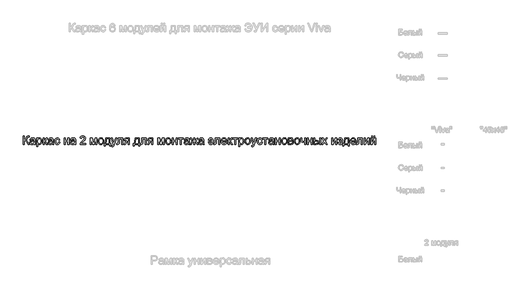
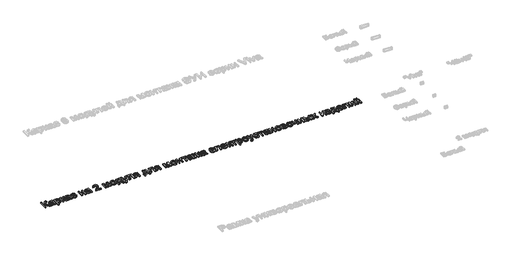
# One storey, part 19 of 48: 1 proxy.
"""IFC4 building model written with IfcOpenShell, lengths in millimetres."""

from ifc_helpers import new_model, si_unit, origin, origin_with_axes, place, context, project, spatial, polyline, outline, extrude, element, save

model = new_model("IFC4")

# Units and contexts
model_context = context("Model", 3, world=origin())
ifc_project = project(units=[si_unit("LENGTHUNIT", "METRE", prefix="MILLI")], contexts=[model_context])

# Site, building, storey
site = spatial("IfcSite", under=ifc_project)
building = spatial("IfcBuilding", under=site)
storey = spatial("IfcBuildingStorey", under=building, Name="Этаж 01", Elevation=0.0)

# Proxy
placement = place(None, origin())
element("IfcBuildingElementProxy", 1, Name="150 мм Arial", ObjectType="150 мм Arial", at=placement, inside=storey, context=model_context, shape_type="SweptSolid", body=[
    extrude(outline(polyline([(69871.8637048, -5429.4534975), (69890.699263, -5429.4534975), (69890.699263, -5495.377951), (69903.4509727, -5494.1317507), (69911.7605072, -5490.39315), (69926.4573929, -5465.1748392), (69936.8500593, -5444.113595), (69948.6222831, -5433.6841404), (69965.4528844, -5429.4534975), (69977.8137195, -5429.6742267), (69977.8137195, -5448.5097848), (69973.6566529, -5448.3994202), (69969.4995864, -5448.2890556), (69954.7843066, -5452.8140042), (69943.6006939, -5472.2013853), (69930.2649716, -5495.8194094), (69917.260343, -5503.6185077), (69931.8008789, -5512.1349759), (69946.1390797, -5529.8852821), (69977.8137195, -5580.1379627), (69955.9615289, -5580.1379627), (69929.1797197, -5537.6843804), (69910.3257674, -5515.5194902), (69901.6207597, -5511.0083373), (69890.699263, -5509.5046196), (69890.699263, -5580.1379627), (69871.8637048, -5580.1379627), (69871.8637048, -5429.4534975)])), origin_with_axes(), (0.0, 0.0, 1.0), 20.0),
    extrude(outline(polyline([(70062.5737311, -5566.0112941), (70044.3083901, -5578.7767993), (70024.1300626, -5582.4924075), (70008.3893118, -5580.2575243), (69996.7780363, -5573.552875), (69989.618133, -5563.3717408), (69987.2314985, -5550.7074031), (69990.8367421, -5535.8081823), (70000.3097035, -5524.9924516), (70013.498273, -5518.8120341), (70029.7954454, -5515.9793427), (70062.4633665, -5509.5046196), (70062.5737311, -5505.3107649), (70061.2769471, -5496.9046613), (70057.386595, -5491.4048255), (70048.6861858, -5487.3213353), (70036.5644741, -5485.9601719), (70017.5081867, -5489.5838096), (70008.4215014, -5502.4412853), (69989.5859433, -5500.0868405), (69997.7345295, -5481.6927408), (70014.1420665, -5470.9137983), (70038.9924952, -5467.1246138), (70061.819573, -5470.4723399), (70074.713837, -5478.8784435), (70080.4895843, -5491.6623429), (70081.4092893, -5508.1434562), (70081.4092893, -5531.5775393), (70082.3657825, -5564.3006428), (70086.1181788, -5580.1379627), (70067.2826207, -5580.1379627), (70062.5737311, -5566.0112941)]), holes=[polyline([(70062.5737311, -5528.3401778), (70032.1866783, -5534.1159251), (70015.9814765, -5537.1693457), (70008.6422306, -5542.1357526), (70006.0670567, -5549.3830279), (70011.6772571, -5559.5733592), (70028.1399764, -5563.6568493), (70047.1962637, -5559.1502949), (70059.4835224, -5548.2425937), (70062.4633665, -5533.6744667), (70062.5737311, -5528.3401778)])]), origin_with_axes(), (0.0, 0.0, 1.0), 20.0),
    extrude(outline(polyline([(70107.3081818, -5622.5179685), (70107.3081818, -5469.4790585), (70126.1437399, -5469.4790585), (70126.1437399, -5487.9467347), (70139.1667625, -5472.330144), (70156.7515219, -5467.1246138), (70169.489436, -5468.9456296), (70180.6270634, -5474.4086773), (70189.6953546, -5483.1826629), (70196.22526, -5494.9364926), (70201.4859725, -5523.962382), (70200.000649, -5540.0710149), (70195.5446783, -5554.4781935), (70188.2606148, -5566.4527525), (70178.2910127, -5575.2635263), (70166.6797372, -5580.6851872), (70154.4706535, -5582.4924075), (70138.0815106, -5577.6547592), (70126.1437399, -5565.4226829), (70126.1437399, -5622.5179685), (70107.3081818, -5622.5179685)]), holes=[polyline([(70126.1437399, -5525.6914274), (70128.1808865, -5542.577211), (70134.2923261, -5554.386223), (70143.3100335, -5561.3391927), (70154.0659833, -5563.6568493), (70164.9966771, -5561.2564193), (70174.2443108, -5554.0551292), (70180.5488885, -5541.8138558), (70182.6504144, -5524.2934758), (70180.5994722, -5507.4996627), (70174.4466459, -5495.5251038), (70165.442734, -5488.3514049), (70154.8385355, -5485.9601719), (70144.1929503, -5488.5031562), (70134.8441491, -5496.1321091), (70128.3188422, -5508.6079073), (70126.1437399, -5525.6914274)])]), origin_with_axes(), (0.0, 0.0, 1.0), 20.0),
    extrude(outline(polyline([(70222.6759754, -5469.4790585), (70241.5115336, -5469.4790585), (70241.5115336, -5516.5679539), (70254.129886, -5513.1834396), (70264.4673701, -5493.4649646), (70273.0574147, -5476.4504223), (70280.6357838, -5470.9137983), (70294.4129645, -5469.4790585), (70298.0182081, -5469.4790585), (70298.0182081, -5488.4249813), (70292.9414365, -5488.3146167), (70283.7443866, -5490.3011795), (70277.2696635, -5502.6988027), (70269.6729003, -5516.1081014), (70259.0227166, -5522.674795), (70270.905305, -5530.0048438), (70282.5671643, -5545.4466905), (70302.7270976, -5580.1379627), (70281.3163655, -5580.1379627), (70261.5611023, -5546.1824545), (70251.6282885, -5531.8166626), (70241.5115336, -5528.3401778), (70241.5115336, -5580.1379627), (70222.6759754, -5580.1379627), (70222.6759754, -5469.4790585)])), origin_with_axes(), (0.0, 0.0, 1.0), 20.0),
    extrude(outline(polyline([(70385.1326645, -5566.0112941), (70366.8673234, -5578.7767993), (70346.688996, -5582.4924075), (70330.9482451, -5580.2575243), (70319.3369697, -5573.552875), (70312.1770663, -5563.3717408), (70309.7904319, -5550.7074031), (70313.3956755, -5535.8081823), (70322.8686368, -5524.9924516), (70336.0572064, -5518.8120341), (70352.3543787, -5515.9793427), (70385.0222999, -5509.5046196), (70385.1326645, -5505.3107649), (70383.8358805, -5496.9046613), (70379.9455284, -5491.4048255), (70371.2451192, -5487.3213353), (70359.1234075, -5485.9601719), (70340.0671201, -5489.5838096), (70330.9804348, -5502.4412853), (70312.1448767, -5500.0868405), (70320.2934629, -5481.6927408), (70336.7009998, -5470.9137983), (70361.5514286, -5467.1246138), (70384.3785064, -5470.4723399), (70397.2727704, -5478.8784435), (70403.0485177, -5491.6623429), (70403.9682227, -5508.1434562), (70403.9682227, -5531.5775393), (70404.9247159, -5564.3006428), (70408.6771122, -5580.1379627), (70389.841554, -5580.1379627), (70385.1326645, -5566.0112941)]), holes=[polyline([(70385.1326645, -5528.3401778), (70354.7456117, -5534.1159251), (70338.5404098, -5537.1693457), (70331.201164, -5542.1357526), (70328.6259901, -5549.3830279), (70334.2361905, -5559.5733592), (70350.6989098, -5563.6568493), (70369.7551971, -5559.1502949), (70382.0424558, -5548.2425937), (70385.0222999, -5533.6744667), (70385.1326645, -5528.3401778)])]), origin_with_axes(), (0.0, 0.0, 1.0), 20.0),
    extrude(outline(polyline([(70500.5004582, -5540.1124016), (70519.3360164, -5542.4668464), (70514.0845009, -5559.2192727), (70504.2160663, -5571.8790119), (70490.6596148, -5579.8390586), (70474.3440483, -5582.4924075), (70454.3082752, -5578.7905949), (70438.6411007, -5567.6851572), (70428.5289444, -5549.6635379), (70425.1582256, -5525.2131808), (70426.5975639, -5508.4515574), (70430.9155788, -5493.9248171), (70438.1812482, -5482.19398), (70448.46355, -5473.8200661), (70460.7646042, -5468.7984769), (70474.0865309, -5467.1246138), (70490.0020258, -5469.4238762), (70502.7261443, -5476.3216637), (70511.8542163, -5487.450094), (70516.9815716, -5502.4412853), (70498.1460134, -5504.7957301), (70489.408816, -5490.6874556), (70474.2336837, -5485.9601719), (70462.0613882, -5488.2870255), (70452.3998873, -5495.2675864), (70446.0953096, -5507.2789335), (70443.9937837, -5524.698146), (70446.0493244, -5542.3518833), (70452.2159463, -5554.4046171), (70461.7027033, -5561.3437913), (70473.7186489, -5563.6568493), (70483.4721203, -5562.2129125), (70491.4689552, -5557.881102), (70497.2860893, -5550.5510532), (70500.5004582, -5540.1124016)])), origin_with_axes(), (0.0, 0.0, 1.0), 20.0),
    extrude(outline(polyline([(70594.678249, -5469.4790585), (70613.5138071, -5469.4790585), (70613.5138071, -5511.8590644), (70662.9571473, -5511.8590644), (70662.9571473, -5469.4790585), (70681.7927054, -5469.4790585), (70681.7927054, -5580.1379627), (70662.9571473, -5580.1379627), (70662.9571473, -5530.6946225), (70613.5138071, -5530.6946225), (70613.5138071, -5580.1379627), (70594.678249, -5580.1379627), (70594.678249, -5469.4790585)])), origin_with_axes(), (0.0, 0.0, 1.0), 20.0),
    extrude(outline(polyline([(70780.6793857, -5566.0112941), (70762.4140447, -5578.7767993), (70742.2357172, -5582.4924075), (70726.4949664, -5580.2575243), (70714.8836909, -5573.552875), (70707.7237876, -5563.3717408), (70705.3371531, -5550.7074031), (70708.9423967, -5535.8081823), (70718.415358, -5524.9924516), (70731.6039276, -5518.8120341), (70747.9011, -5515.9793427), (70780.5690211, -5509.5046196), (70780.6793857, -5505.3107649), (70779.3826017, -5496.9046613), (70775.4922496, -5491.4048255), (70766.7918404, -5487.3213353), (70754.6701287, -5485.9601719), (70735.6138413, -5489.5838096), (70726.527156, -5502.4412853), (70707.6915979, -5500.0868405), (70715.8401841, -5481.6927408), (70732.2477211, -5470.9137983), (70757.0981498, -5467.1246138), (70779.9252276, -5470.4723399), (70792.8194916, -5478.8784435), (70798.5952389, -5491.6623429), (70799.5149439, -5508.1434562), (70799.5149439, -5531.5775393), (70800.4714371, -5564.3006428), (70804.2238334, -5580.1379627), (70785.3882753, -5580.1379627), (70780.6793857, -5566.0112941)]), holes=[polyline([(70780.6793857, -5528.3401778), (70750.2923329, -5534.1159251), (70734.087131, -5537.1693457), (70726.7478852, -5542.1357526), (70724.1727113, -5549.3830279), (70729.7829117, -5559.5733592), (70746.245631, -5563.6568493), (70765.3019183, -5559.1502949), (70777.589177, -5548.2425937), (70780.5690211, -5533.6744667), (70780.6793857, -5528.3401778)])]), origin_with_axes(), (0.0, 0.0, 1.0), 20.0),
    extrude(outline(polyline([(70976.0983016, -5561.3024045), (70976.0983016, -5580.1379627), (70877.2116213, -5580.1379627), (70879.2349722, -5567.1517283), (70890.6761023, -5547.1573418), (70914.2573382, -5525.3235454), (70946.7781065, -5493.9432112), (70952.8757506, -5483.1274806), (70954.9082986, -5472.6060555), (70952.9907137, -5463.1744808), (70947.237959, -5455.3339958), (70938.3949956, -5450.0502907), (70927.2067844, -5448.2890556), (70915.4575532, -5450.0089039), (70906.3294812, -5455.1684489), (70900.4387707, -5463.3630204), (70898.4016242, -5474.1879481), (70879.566066, -5471.8335033), (70884.1324013, -5453.6141475), (70894.0054343, -5440.3060163), (70908.6701304, -5432.1666272), (70927.6114546, -5429.4534975), (70946.6907346, -5432.4701298), (70961.3278395, -5441.5200269), (70970.6398525, -5455.0396902), (70973.7438568, -5471.4656213), (70970.3961306, -5489.3262922), (70959.2677003, -5507.7939683), (70932.2835559, -5533.6008903), (70910.6153064, -5551.7190786), (70902.1172323, -5561.3024045), (70976.0983016, -5561.3024045)])), origin_with_axes(), (0.0, 0.0, 1.0), 20.0),
    extrude(outline(polyline([(71058.5038685, -5469.4790585), (71090.9142723, -5469.4790585), (71115.8934597, -5558.065043), (71142.8224218, -5469.4790585), (71173.8716622, -5469.4790585), (71173.8716622, -5580.1379627), (71155.036104, -5580.1379627), (71155.036104, -5491.0369435), (71127.9599892, -5580.1379627), (71103.2383191, -5580.1379627), (71077.3394266, -5486.7695123), (71077.3394266, -5580.1379627), (71058.5038685, -5580.1379627), (71058.5038685, -5469.4790585)])), origin_with_axes(), (0.0, 0.0, 1.0), 20.0),
    extrude(outline(polyline([(71197.4161099, -5524.8085106), (71201.490403, -5498.1278689), (71213.7132822, -5479.3750842), (71228.8148381, -5470.1872314), (71246.8962382, -5467.1246138), (71266.683691, -5470.8540175), (71282.4888212, -5482.0422287), (71292.8492979, -5499.8063305), (71296.3027902, -5523.2634062), (71294.7760799, -5542.2921024), (71290.195949, -5556.777456), (71282.6957549, -5567.6253763), (71272.4088546, -5575.7417728), (71260.1905738, -5580.8047488), (71246.8962382, -5582.4924075), (71226.8696621, -5578.7767993), (71211.082926, -5567.6299749), (71200.8328139, -5549.4933925), (71197.4161099, -5524.8085106)]), holes=[polyline([(71216.251668, -5524.7717224), (71218.4313688, -5541.8184544), (71224.9704713, -5553.9631587), (71234.8113147, -5561.2334267), (71246.8962382, -5563.6568493), (71258.9259795, -5561.2196311), (71268.7484287, -5553.9079764), (71275.2875312, -5541.6023237), (71277.467232, -5524.1831112), (71275.2737356, -5507.63302), (71268.6932464, -5495.6538625), (71258.8570016, -5488.3835946), (71246.8962382, -5485.9601719), (71234.8113147, -5488.3743975), (71224.9704713, -5495.6170743), (71218.4313688, -5507.7341875), (71216.251668, -5524.7717224)])]), origin_with_axes(), (0.0, 0.0, 1.0), 20.0),
    extrude(outline(polyline([(71333.9739065, -5469.4790585), (71404.6072495, -5469.4790585), (71404.6072495, -5561.3024045), (71418.7339182, -5561.3024045), (71418.7339182, -5610.7457447), (71399.89836, -5610.7457447), (71399.89836, -5580.1379627), (71322.2016826, -5580.1379627), (71322.2016826, -5610.7457447), (71303.3661245, -5610.7457447), (71303.3661245, -5561.3024045), (71315.1383483, -5561.3024045), (71323.6962032, -5545.8375652), (71329.6880812, -5525.3787277), (71333.9739065, -5469.4790585)]), holes=[polyline([(71350.4550199, -5488.3146167), (71346.0404359, -5531.2280514), (71336.3283512, -5561.3024045), (71385.7716914, -5561.3024045), (71385.7716914, -5488.3146167), (71350.4550199, -5488.3146167)])]), origin_with_axes(), (0.0, 0.0, 1.0), 20.0),
    extrude(outline(polyline([(71439.9239211, -5622.5179685), (71437.5694763, -5604.3813862), (71447.1344082, -5606.0368552), (71456.0739407, -5603.9583219), (71461.5553824, -5598.1641805), (71466.7057303, -5584.2950292), (71468.1772583, -5579.7332925), (71428.1516972, -5469.4790585), (71448.017325, -5469.4790585), (71469.2441161, -5530.9153517), (71476.6385442, -5555.489869), (71484.0329723, -5533.7848313), (71505.8483746, -5469.4790585), (71525.5668496, -5469.4790585), (71487.0496047, -5582.7867131), (71477.0432144, -5607.3612303), (71466.1171191, -5620.6417704), (71451.4386275, -5624.8724133), (71439.9239211, -5622.5179685)])), origin_with_axes(), (0.0, 0.0, 1.0), 20.0),
    extrude(outline(polyline([(71550.5828252, -5469.4790585), (71635.3428369, -5469.4790585), (71635.3428369, -5580.0275981), (71616.5072788, -5580.0275981), (71616.5072788, -5488.3146167), (71569.4183834, -5488.3146167), (71569.4183834, -5541.105683), (71568.1491905, -5565.4594711), (71561.1778267, -5575.7417728), (71544.6967133, -5580.1379627), (71529.3928223, -5579.1814695), (71529.3928223, -5561.3024045), (71537.81732, -5561.3024045), (71546.3337882, -5560.1435763), (71549.7366966, -5556.4647563), (71550.5828252, -5540.0388252), (71550.5828252, -5469.4790585)])), origin_with_axes(), (0.0, 0.0, 1.0), 20.0),
    extrude(outline(polyline([(71748.3561858, -5469.4790585), (71748.3561858, -5580.1379627), (71729.5206277, -5580.1379627), (71729.5206277, -5537.7579568), (71719.25672, -5537.7579568), (71705.2772042, -5540.1491898), (71692.143817, -5556.225633), (71677.1342316, -5580.1379627), (71655.3556175, -5580.1379627), (71674.264752, -5549.8980627), (71682.6156733, -5539.0455438), (71690.304407, -5534.2262897), (71677.4285372, -5530.2807553), (71668.3786401, -5522.7851596), (71663.0259571, -5512.8155576), (71661.2417294, -5501.4480039), (71663.6789476, -5488.55374), (71670.9906023, -5478.3450146), (71682.9191759, -5471.6955476), (71699.2071513, -5469.4790585), (71748.3561858, -5469.4790585)]), holes=[polyline([(71729.5206277, -5488.3146167), (71704.688593, -5488.3146167), (71691.863307, -5489.4044671), (71684.583842, -5492.6740183), (71680.0772875, -5502.8827437), (71681.737355, -5510.0610411), (71686.7175575, -5515.0412436), (71710.2436111, -5518.9223987), (71729.5206277, -5518.9223987), (71729.5206277, -5488.3146167)])]), origin_with_axes(), (0.0, 0.0, 1.0), 20.0),
    extrude(outline(polyline([(71851.9517557, -5469.4790585), (71922.5850988, -5469.4790585), (71922.5850988, -5561.3024045), (71936.7117674, -5561.3024045), (71936.7117674, -5610.7457447), (71917.8762092, -5610.7457447), (71917.8762092, -5580.1379627), (71840.1795318, -5580.1379627), (71840.1795318, -5610.7457447), (71821.3439737, -5610.7457447), (71821.3439737, -5561.3024045), (71833.1161975, -5561.3024045), (71841.6740524, -5545.8375652), (71847.6659304, -5525.3787277), (71851.9517557, -5469.4790585)]), holes=[polyline([(71868.4328691, -5488.3146167), (71864.0182851, -5531.2280514), (71854.3062004, -5561.3024045), (71903.7495406, -5561.3024045), (71903.7495406, -5488.3146167), (71868.4328691, -5488.3146167)])]), origin_with_axes(), (0.0, 0.0, 1.0), 20.0),
    extrude(outline(polyline([(71967.3195494, -5469.4790585), (72052.0795611, -5469.4790585), (72052.0795611, -5580.0275981), (72033.2440029, -5580.0275981), (72033.2440029, -5488.3146167), (71986.1551075, -5488.3146167), (71986.1551075, -5541.105683), (71984.8859146, -5565.4594711), (71977.9145508, -5575.7417728), (71961.4334374, -5580.1379627), (71946.1295464, -5579.1814695), (71946.1295464, -5561.3024045), (71954.5540441, -5561.3024045), (71963.0705123, -5560.1435763), (71966.4734208, -5556.4647563), (71967.3195494, -5540.0388252), (71967.3195494, -5469.4790585)])), origin_with_axes(), (0.0, 0.0, 1.0), 20.0),
    extrude(outline(polyline([(72165.09291, -5469.4790585), (72165.09291, -5580.1379627), (72146.2573518, -5580.1379627), (72146.2573518, -5537.7579568), (72135.9934442, -5537.7579568), (72122.0139283, -5540.1491898), (72108.8805411, -5556.225633), (72093.8709557, -5580.1379627), (72072.0923416, -5580.1379627), (72091.0014761, -5549.8980627), (72099.3523974, -5539.0455438), (72107.0411311, -5534.2262897), (72094.1652613, -5530.2807553), (72085.1153642, -5522.7851596), (72079.7626812, -5512.8155576), (72077.9784535, -5501.4480039), (72080.4156717, -5488.55374), (72087.7273264, -5478.3450146), (72099.6559001, -5471.6955476), (72115.9438754, -5469.4790585), (72165.09291, -5469.4790585)]), holes=[polyline([(72146.2573518, -5488.3146167), (72121.4253171, -5488.3146167), (72108.6000311, -5489.4044671), (72101.3205661, -5492.6740183), (72096.8140117, -5502.8827437), (72098.4740792, -5510.0610411), (72103.4542817, -5515.0412436), (72126.9803353, -5518.9223987), (72146.2573518, -5518.9223987), (72146.2573518, -5488.3146167)])]), origin_with_axes(), (0.0, 0.0, 1.0), 20.0),
    extrude(outline(polyline([(72252.2073664, -5469.4790585), (72284.6177702, -5469.4790585), (72309.5969577, -5558.065043), (72336.5259197, -5469.4790585), (72367.5751601, -5469.4790585), (72367.5751601, -5580.1379627), (72348.739602, -5580.1379627), (72348.739602, -5491.0369435), (72321.6634871, -5580.1379627), (72296.941817, -5580.1379627), (72271.0429246, -5486.7695123), (72271.0429246, -5580.1379627), (72252.2073664, -5580.1379627), (72252.2073664, -5469.4790585)])), origin_with_axes(), (0.0, 0.0, 1.0), 20.0),
    extrude(outline(polyline([(72391.1196078, -5524.8085106), (72395.1939009, -5498.1278689), (72407.4167802, -5479.3750842), (72422.5183361, -5470.1872314), (72440.5997362, -5467.1246138), (72460.387189, -5470.8540175), (72476.1923192, -5482.0422287), (72486.5527959, -5499.8063305), (72490.0062881, -5523.2634062), (72488.4795778, -5542.2921024), (72483.899447, -5556.777456), (72476.3992528, -5567.6253763), (72466.1123525, -5575.7417728), (72453.8940718, -5580.8047488), (72440.5997362, -5582.4924075), (72420.57316, -5578.7767993), (72404.7864239, -5567.6299749), (72394.5363118, -5549.4933925), (72391.1196078, -5524.8085106)]), holes=[polyline([(72409.955166, -5524.7717224), (72412.1348668, -5541.8184544), (72418.6739692, -5553.9631587), (72428.5148126, -5561.2334267), (72440.5997362, -5563.6568493), (72452.6294774, -5561.2196311), (72462.4519267, -5553.9079764), (72468.9910291, -5541.6023237), (72471.17073, -5524.1831112), (72468.9772336, -5507.63302), (72462.3967444, -5495.6538625), (72452.5604995, -5488.3835946), (72440.5997362, -5485.9601719), (72428.5148126, -5488.3743975), (72418.6739692, -5495.6170743), (72412.1348668, -5507.7341875), (72409.955166, -5524.7717224)])]), origin_with_axes(), (0.0, 0.0, 1.0), 20.0),
    extrude(outline(polyline([(72511.196291, -5469.4790585), (72530.0318492, -5469.4790585), (72530.0318492, -5511.8590644), (72579.4751893, -5511.8590644), (72579.4751893, -5469.4790585), (72598.3107475, -5469.4790585), (72598.3107475, -5580.1379627), (72579.4751893, -5580.1379627), (72579.4751893, -5530.6946225), (72530.0318492, -5530.6946225), (72530.0318492, -5580.1379627), (72511.196291, -5580.1379627), (72511.196291, -5469.4790585)])), origin_with_axes(), (0.0, 0.0, 1.0), 20.0),
    extrude(outline(polyline([(72617.1463056, -5469.4790585), (72706.6152069, -5469.4790585), (72706.6152069, -5488.3146167), (72671.2985353, -5488.3146167), (72671.2985353, -5580.1379627), (72652.4629772, -5580.1379627), (72652.4629772, -5488.3146167), (72617.1463056, -5488.3146167), (72617.1463056, -5469.4790585)])), origin_with_axes(), (0.0, 0.0, 1.0), 20.0),
    extrude(outline(polyline([(72793.7296633, -5566.0112941), (72775.4643223, -5578.7767993), (72755.2859948, -5582.4924075), (72739.545244, -5580.2575243), (72727.9339685, -5573.552875), (72720.7740652, -5563.3717408), (72718.3874307, -5550.7074031), (72721.9926743, -5535.8081823), (72731.4656356, -5524.9924516), (72744.6542052, -5518.8120341), (72760.9513776, -5515.9793427), (72793.6192987, -5509.5046196), (72793.7296633, -5505.3107649), (72792.4328793, -5496.9046613), (72788.5425272, -5491.4048255), (72779.842118, -5487.3213353), (72767.7204063, -5485.9601719), (72748.6641189, -5489.5838096), (72739.5774336, -5502.4412853), (72720.7418755, -5500.0868405), (72728.8904617, -5481.6927408), (72745.2979987, -5470.9137983), (72770.1484274, -5467.1246138), (72792.9755052, -5470.4723399), (72805.8697692, -5478.8784435), (72811.6455165, -5491.6623429), (72812.5652215, -5508.1434562), (72812.5652215, -5531.5775393), (72813.5217147, -5564.3006428), (72817.274111, -5580.1379627), (72798.4385529, -5580.1379627), (72793.7296633, -5566.0112941)]), holes=[polyline([(72793.7296633, -5528.3401778), (72763.3426105, -5534.1159251), (72747.1374086, -5537.1693457), (72739.7981628, -5542.1357526), (72737.2229889, -5549.3830279), (72742.8331893, -5559.5733592), (72759.2959086, -5563.6568493), (72778.3521959, -5559.1502949), (72790.6394546, -5548.2425937), (72793.6192987, -5533.6744667), (72793.7296633, -5528.3401778)])]), origin_with_axes(), (0.0, 0.0, 1.0), 20.0),
    extrude(outline(polyline([(72906.7430123, -5469.4790585), (72906.7430123, -5516.5679539), (72917.7242898, -5512.6867989), (72928.1169562, -5492.5452596), (72940.5145794, -5473.2314549), (72958.136127, -5469.4790585), (72965.6041315, -5469.4790585), (72965.6041315, -5488.4249813), (72960.4169953, -5488.3146167), (72950.7049107, -5490.2643913), (72943.9726702, -5502.4780735), (72936.1551778, -5515.8689781), (72924.9899592, -5522.674795), (72937.304809, -5530.0048438), (72949.3069591, -5545.4466905), (72970.313021, -5580.1379627), (72948.7183479, -5580.1379627), (72928.0433798, -5545.9249371), (72917.5035606, -5531.706298), (72906.7430123, -5528.3401778), (72906.7430123, -5580.1379627), (72887.9074541, -5580.1379627), (72887.9074541, -5528.3401778), (72877.1836939, -5531.6327216), (72866.5702984, -5545.8513607), (72845.8953302, -5580.1379627), (72824.3374453, -5580.1379627), (72845.2699309, -5545.4466905), (72857.3640514, -5530.0048438), (72869.7340835, -5522.674795), (72857.8882833, -5515.1700023), (72847.7347402, -5495.8561976), (72842.7683333, -5489.4918391), (72834.6381412, -5488.2042521), (72829.0463349, -5488.3146167), (72829.0463349, -5469.4790585), (72831.8790262, -5469.4790585), (72848.3969278, -5470.6562809), (72856.9685783, -5475.6594761), (72866.5702984, -5492.5452596), (72876.8526001, -5512.5580402), (72887.9074541, -5516.5679539), (72887.9074541, -5469.4790585), (72906.7430123, -5469.4790585)])), origin_with_axes(), (0.0, 0.0, 1.0), 20.0),
    extrude(outline(polyline([(73050.3641432, -5566.0112941), (73032.0988021, -5578.7767993), (73011.9204747, -5582.4924075), (72996.1797238, -5580.2575243), (72984.5684483, -5573.552875), (72977.408545, -5563.3717408), (72975.0219106, -5550.7074031), (72978.6271541, -5535.8081823), (72988.1001155, -5524.9924516), (73001.288685, -5518.8120341), (73017.5858574, -5515.9793427), (73050.2537786, -5509.5046196), (73050.3641432, -5505.3107649), (73049.0673591, -5496.9046613), (73045.177007, -5491.4048255), (73036.4765978, -5487.3213353), (73024.3548861, -5485.9601719), (73005.2985988, -5489.5838096), (72996.2119135, -5502.4412853), (72977.3763553, -5500.0868405), (72985.5249415, -5481.6927408), (73001.9324785, -5470.9137983), (73026.7829073, -5467.1246138), (73049.6099851, -5470.4723399), (73062.504249, -5478.8784435), (73068.2799963, -5491.6623429), (73069.1997013, -5508.1434562), (73069.1997013, -5531.5775393), (73070.1561945, -5564.3006428), (73073.9085909, -5580.1379627), (73055.0730327, -5580.1379627), (73050.3641432, -5566.0112941)]), holes=[polyline([(73050.3641432, -5528.3401778), (73019.9770904, -5534.1159251), (73003.7718885, -5537.1693457), (72996.4326427, -5542.1357526), (72993.8574687, -5549.3830279), (72999.4676691, -5559.5733592), (73015.9303884, -5563.6568493), (73034.9866758, -5559.1502949), (73047.2739344, -5548.2425937), (73050.2537786, -5533.6744667), (73050.3641432, -5528.3401778)])]), origin_with_axes(), (0.0, 0.0, 1.0), 20.0),
    extrude(outline(polyline([(73184.567495, -5511.8590644), (73219.8841665, -5511.8590644), (73216.9824973, -5501.4250113), (73211.3676984, -5493.1522649), (73203.4076517, -5487.7581952), (73193.4702393, -5485.9601719), (73178.2031365, -5490.6690615), (73170.4408264, -5504.7957301), (73151.6052682, -5502.4412853), (73155.9968596, -5488.3008211), (73164.5363204, -5477.0022453), (73176.7913893, -5469.5940217), (73192.3298051, -5467.1246138), (73211.5562379, -5470.9689806), (73226.2669192, -5482.5020812), (73235.6065233, -5500.7674222), (73238.7197247, -5524.8085106), (73236.1491493, -5548.7392344), (73227.2602005, -5567.5563985), (73212.7334603, -5579.4205928), (73193.2495101, -5582.4924075), (73176.5476675, -5579.737891), (73163.3774921, -5571.4743417), (73154.143654, -5558.713435), (73149.2508235, -5542.4668464), (73168.0863816, -5540.1124016), (73171.0616273, -5550.4130975), (73176.1981796, -5557.7707374), (73183.4960387, -5562.1853213), (73192.9552045, -5563.6568493), (73203.5961912, -5561.5967101), (73211.6068217, -5555.4162926), (73217.023884, -5545.1155967), (73219.8841665, -5530.6946225), (73184.567495, -5530.6946225), (73184.567495, -5511.8590644)])), origin_with_axes(), (0.0, 0.0, 1.0), 20.0),
    extrude(outline(polyline([(73269.3275067, -5469.4790585), (73354.0875184, -5469.4790585), (73354.0875184, -5580.0275981), (73335.2519602, -5580.0275981), (73335.2519602, -5488.3146167), (73288.1630648, -5488.3146167), (73288.1630648, -5541.105683), (73286.893872, -5565.4594711), (73279.9225082, -5575.7417728), (73263.4413948, -5580.1379627), (73248.1375038, -5579.1814695), (73248.1375038, -5561.3024045), (73256.5620015, -5561.3024045), (73265.0784697, -5560.1435763), (73268.4813781, -5556.4647563), (73269.3275067, -5540.0388252), (73269.3275067, -5469.4790585)])), origin_with_axes(), (0.0, 0.0, 1.0), 20.0),
    extrude(outline(polyline([(73459.8168038, -5547.1757359), (73478.28448, -5549.5301807), (73471.6304144, -5563.4453172), (73461.0124203, -5573.8471806), (73446.669621, -5580.3311007), (73428.8411398, -5582.4924075), (73406.7406289, -5578.7630037), (73389.7352837, -5567.5747926), (73378.8919619, -5549.6543409), (73375.2775213, -5525.7282156), (73378.9287501, -5500.9973485), (73389.8824365, -5482.5020812), (73406.6578555, -5470.9689806), (73427.774282, -5467.1246138), (73448.2331195, -5470.9597836), (73464.5808756, -5482.465293), (73475.3000373, -5500.9237721), (73478.8730911, -5525.617851), (73478.7627266, -5530.6946225), (73394.1130795, -5530.6946225), (73397.3734336, -5544.7937), (73404.9472042, -5555.1587752), (73415.877898, -5561.5323308), (73429.2090218, -5563.6568493), (73447.676698, -5559.720512), (73459.8168038, -5547.1757359)]), holes=[polyline([(73394.1130795, -5511.8590644), (73460.037533, -5511.8590644), (73457.4899502, -5501.9078564), (73452.4959521, -5494.7893398), (73441.5146745, -5488.1674639), (73427.7007056, -5485.9601719), (73415.0041783, -5487.721407), (73404.5057458, -5493.0051121), (73397.2078867, -5501.2410703), (73394.1130795, -5511.8590644)])]), origin_with_axes(), (0.0, 0.0, 1.0), 20.0),
    extrude(outline(polyline([(73497.7086493, -5469.4790585), (73516.5442075, -5469.4790585), (73516.5442075, -5516.5679539), (73529.1625599, -5513.1834396), (73539.500044, -5493.4649646), (73548.0900885, -5476.4504223), (73555.6684576, -5470.9137983), (73569.4456384, -5469.4790585), (73573.0508819, -5469.4790585), (73573.0508819, -5488.4249813), (73567.9741104, -5488.3146167), (73558.7770605, -5490.3011795), (73552.3023374, -5502.6988027), (73544.7055742, -5516.1081014), (73534.0553904, -5522.674795), (73545.9379789, -5530.0048438), (73557.5998381, -5545.4466905), (73577.7597715, -5580.1379627), (73556.3490393, -5580.1379627), (73536.5937762, -5546.1824545), (73526.6609623, -5531.8166626), (73516.5442075, -5528.3401778), (73516.5442075, -5580.1379627), (73497.7086493, -5580.1379627), (73497.7086493, -5469.4790585)])), origin_with_axes(), (0.0, 0.0, 1.0), 20.0),
    extrude(outline(polyline([(73580.1142162, -5469.4790585), (73669.5831174, -5469.4790585), (73669.5831174, -5488.3146167), (73634.2664459, -5488.3146167), (73634.2664459, -5580.1379627), (73615.4308878, -5580.1379627), (73615.4308878, -5488.3146167), (73580.1142162, -5488.3146167), (73580.1142162, -5469.4790585)])), origin_with_axes(), (0.0, 0.0, 1.0), 20.0),
    extrude(outline(polyline([(73686.0642308, -5622.5179685), (73686.0642308, -5469.4790585), (73704.899789, -5469.4790585), (73704.899789, -5487.9467347), (73717.9228116, -5472.330144), (73735.507571, -5467.1246138), (73748.2454851, -5468.9456296), (73759.3831125, -5474.4086773), (73768.4514037, -5483.1826629), (73774.9813091, -5494.9364926), (73780.2420216, -5523.962382), (73778.756698, -5540.0710149), (73774.3007274, -5554.4781935), (73767.0166639, -5566.4527525), (73757.0470618, -5575.2635263), (73745.4357863, -5580.6851872), (73733.2267026, -5582.4924075), (73716.8375597, -5577.6547592), (73704.899789, -5565.4226829), (73704.899789, -5622.5179685), (73686.0642308, -5622.5179685)]), holes=[polyline([(73704.899789, -5525.6914274), (73706.9369355, -5542.577211), (73713.0483752, -5554.386223), (73722.0660826, -5561.3391927), (73732.8220324, -5563.6568493), (73743.7527262, -5561.2564193), (73753.0003599, -5554.0551292), (73759.3049375, -5541.8138558), (73761.4064634, -5524.2934758), (73759.3555213, -5507.4996627), (73753.202695, -5495.5251038), (73744.1987831, -5488.3514049), (73733.5945846, -5485.9601719), (73722.9489994, -5488.5031562), (73713.6001982, -5496.1321091), (73707.0748913, -5508.6079073), (73704.899789, -5525.6914274)])]), origin_with_axes(), (0.0, 0.0, 1.0), 20.0),
    extrude(outline(polyline([(73796.723135, -5524.8085106), (73800.7974281, -5498.1278689), (73813.0203074, -5479.3750842), (73828.1218633, -5470.1872314), (73846.2032633, -5467.1246138), (73865.9907161, -5470.8540175), (73881.7958464, -5482.0422287), (73892.1563231, -5499.8063305), (73895.6098153, -5523.2634062), (73894.083105, -5542.2921024), (73889.5029742, -5556.777456), (73882.00278, -5567.6253763), (73871.7158797, -5575.7417728), (73859.4975989, -5580.8047488), (73846.2032633, -5582.4924075), (73826.1766872, -5578.7767993), (73810.3899511, -5567.6299749), (73800.139839, -5549.4933925), (73796.723135, -5524.8085106)]), holes=[polyline([(73815.5586931, -5524.7717224), (73817.738394, -5541.8184544), (73824.2774964, -5553.9631587), (73834.1183398, -5561.2334267), (73846.2032633, -5563.6568493), (73858.2330046, -5561.2196311), (73868.0554538, -5553.9079764), (73874.5945563, -5541.6023237), (73876.7742571, -5524.1831112), (73874.5807607, -5507.63302), (73868.0002715, -5495.6538625), (73858.1640267, -5488.3835946), (73846.2032633, -5485.9601719), (73834.1183398, -5488.3743975), (73824.2774964, -5495.6170743), (73817.738394, -5507.7341875), (73815.5586931, -5524.7717224)])]), origin_with_axes(), (0.0, 0.0, 1.0), 20.0),
    extrude(outline(polyline([(73916.7998182, -5622.5179685), (73914.4453734, -5604.3813862), (73924.0103053, -5606.0368552), (73932.9498378, -5603.9583219), (73938.4312795, -5598.1641805), (73943.5816275, -5584.2950292), (73945.0531554, -5579.7332925), (73905.0275944, -5469.4790585), (73924.8932221, -5469.4790585), (73946.1200132, -5530.9153517), (73953.5144413, -5555.489869), (73960.9088694, -5533.7848313), (73982.7242717, -5469.4790585), (74002.4427467, -5469.4790585), (73963.9255018, -5582.7867131), (73953.9191115, -5607.3612303), (73942.9930163, -5620.6417704), (73928.3145247, -5624.8724133), (73916.7998182, -5622.5179685)])), origin_with_axes(), (0.0, 0.0, 1.0), 20.0),
    extrude(outline(polyline([(74088.6742864, -5540.1124016), (74107.5098445, -5542.4668464), (74102.258329, -5559.2192727), (74092.3898945, -5571.8790119), (74078.833443, -5579.8390586), (74062.5178765, -5582.4924075), (74042.4821033, -5578.7905949), (74026.8149289, -5567.6851572), (74016.7027725, -5549.6635379), (74013.3320537, -5525.2131808), (74014.771392, -5508.4515574), (74019.089407, -5493.9248171), (74026.3550764, -5482.19398), (74036.6373781, -5473.8200661), (74048.9384324, -5468.7984769), (74062.2603591, -5467.1246138), (74078.1758539, -5469.4238762), (74090.8999724, -5476.3216637), (74100.0280444, -5487.450094), (74105.1553997, -5502.4412853), (74086.3198416, -5504.7957301), (74077.5826442, -5490.6874556), (74062.4075119, -5485.9601719), (74050.2352164, -5488.2870255), (74040.5737155, -5495.2675864), (74034.2691378, -5507.2789335), (74032.1676119, -5524.698146), (74034.2231525, -5542.3518833), (74040.3897745, -5554.4046171), (74049.8765314, -5561.3437913), (74061.8924771, -5563.6568493), (74071.6459485, -5562.2129125), (74079.6427834, -5557.881102), (74085.4599174, -5550.5510532), (74088.6742864, -5540.1124016)])), origin_with_axes(), (0.0, 0.0, 1.0), 20.0),
    extrude(outline(polyline([(74114.5731788, -5469.4790585), (74204.04208, -5469.4790585), (74204.04208, -5488.3146167), (74168.7254085, -5488.3146167), (74168.7254085, -5580.1379627), (74149.8898504, -5580.1379627), (74149.8898504, -5488.3146167), (74114.5731788, -5488.3146167), (74114.5731788, -5469.4790585)])), origin_with_axes(), (0.0, 0.0, 1.0), 20.0),
    extrude(outline(polyline([(74291.1565365, -5566.0112941), (74272.8911954, -5578.7767993), (74252.712868, -5582.4924075), (74236.9721171, -5580.2575243), (74225.3608417, -5573.552875), (74218.2009383, -5563.3717408), (74215.8143039, -5550.7074031), (74219.4195474, -5535.8081823), (74228.8925088, -5524.9924516), (74242.0810783, -5518.8120341), (74258.3782507, -5515.9793427), (74291.0461719, -5509.5046196), (74291.1565365, -5505.3107649), (74289.8597525, -5496.9046613), (74285.9694004, -5491.4048255), (74277.2689912, -5487.3213353), (74265.1472794, -5485.9601719), (74246.0909921, -5489.5838096), (74237.0043068, -5502.4412853), (74218.1687487, -5500.0868405), (74226.3173348, -5481.6927408), (74242.7248718, -5470.9137983), (74267.5753006, -5467.1246138), (74290.4023784, -5470.4723399), (74303.2966423, -5478.8784435), (74309.0723897, -5491.6623429), (74309.9920947, -5508.1434562), (74309.9920947, -5531.5775393), (74310.9485878, -5564.3006428), (74314.7009842, -5580.1379627), (74295.865426, -5580.1379627), (74291.1565365, -5566.0112941)]), holes=[polyline([(74291.1565365, -5528.3401778), (74260.7694837, -5534.1159251), (74244.5642818, -5537.1693457), (74237.225036, -5542.1357526), (74234.649862, -5549.3830279), (74240.2600625, -5559.5733592), (74256.7227818, -5563.6568493), (74275.7790691, -5559.1502949), (74288.0663277, -5548.2425937), (74291.0461719, -5533.6744667), (74291.1565365, -5528.3401778)])]), origin_with_axes(), (0.0, 0.0, 1.0), 20.0),
    extrude(outline(polyline([(74335.8909871, -5469.4790585), (74354.7265453, -5469.4790585), (74354.7265453, -5511.8590644), (74404.1698854, -5511.8590644), (74404.1698854, -5469.4790585), (74423.0054436, -5469.4790585), (74423.0054436, -5580.1379627), (74404.1698854, -5580.1379627), (74404.1698854, -5530.6946225), (74354.7265453, -5530.6946225), (74354.7265453, -5580.1379627), (74335.8909871, -5580.1379627), (74335.8909871, -5469.4790585)])), origin_with_axes(), (0.0, 0.0, 1.0), 20.0),
    extrude(outline(polyline([(74446.5498913, -5524.8085106), (74450.6241844, -5498.1278689), (74462.8470636, -5479.3750842), (74477.9486196, -5470.1872314), (74496.0300196, -5467.1246138), (74515.8174724, -5470.8540175), (74531.6226026, -5482.0422287), (74541.9830793, -5499.8063305), (74545.4365716, -5523.2634062), (74543.9098613, -5542.2921024), (74539.3297304, -5556.777456), (74531.8295363, -5567.6253763), (74521.542636, -5575.7417728), (74509.3243552, -5580.8047488), (74496.0300196, -5582.4924075), (74476.0034435, -5578.7767993), (74460.2167074, -5567.6299749), (74449.9665953, -5549.4933925), (74446.5498913, -5524.8085106)]), holes=[polyline([(74465.3854494, -5524.7717224), (74467.5651502, -5541.8184544), (74474.1042527, -5553.9631587), (74483.9450961, -5561.2334267), (74496.0300196, -5563.6568493), (74508.0597609, -5561.2196311), (74517.8822101, -5553.9079764), (74524.4213126, -5541.6023237), (74526.6010134, -5524.1831112), (74524.407517, -5507.63302), (74517.8270278, -5495.6538625), (74507.990783, -5488.3835946), (74496.0300196, -5485.9601719), (74483.9450961, -5488.3743975), (74474.1042527, -5495.6170743), (74467.5651502, -5507.7341875), (74465.3854494, -5524.7717224)])]), origin_with_axes(), (0.0, 0.0, 1.0), 20.0),
    extrude(outline(polyline([(74566.6265745, -5469.4790585), (74608.1236635, -5469.4790585), (74630.8771649, -5471.9990502), (74643.6794584, -5481.2328883), (74649.0321414, -5497.3277256), (74645.7947799, -5510.4059305), (74636.045907, -5519.7317391), (74648.7010476, -5529.9404644), (74653.7410309, -5547.6907707), (74650.5496546, -5562.0473656), (74642.9620885, -5572.1549234), (74630.9507413, -5578.1422029), (74614.4880221, -5580.1379627), (74566.6265745, -5580.1379627), (74566.6265745, -5469.4790585)]), holes=[polyline([(74585.4621326, -5511.8590644), (74604.0769616, -5511.8590644), (74619.4360349, -5510.9025712), (74626.9040394, -5507.0765984), (74630.1965833, -5500.1604169), (74628.7526464, -5494.5410195), (74624.4208359, -5490.9265789), (74604.6655728, -5488.3146167), (74585.4621326, -5488.3146167), (74585.4621326, -5511.8590644)]), polyline([(74585.4621326, -5561.3024045), (74608.5651219, -5561.3024045), (74629.0561491, -5557.8994961), (74633.2959891, -5553.2595844), (74634.9054728, -5546.1456663), (74631.6865053, -5537.0773752), (74623.2987958, -5531.7982685), (74606.725712, -5530.6946225), (74585.4621326, -5530.6946225), (74585.4621326, -5561.3024045)])]), origin_with_axes(), (0.0, 0.0, 1.0), 20.0),
    extrude(outline(polyline([(74672.5765891, -5524.8085106), (74676.6508822, -5498.1278689), (74688.8737615, -5479.3750842), (74703.9753174, -5470.1872314), (74722.0567175, -5467.1246138), (74741.8441703, -5470.8540175), (74757.6493005, -5482.0422287), (74768.0097772, -5499.8063305), (74771.4632694, -5523.2634062), (74769.9365591, -5542.2921024), (74765.3564283, -5556.777456), (74757.8562341, -5567.6253763), (74747.5693338, -5575.7417728), (74735.3510531, -5580.8047488), (74722.0567175, -5582.4924075), (74702.0301413, -5578.7767993), (74686.2434052, -5567.6299749), (74675.9932931, -5549.4933925), (74672.5765891, -5524.8085106)]), holes=[polyline([(74691.4121473, -5524.7717224), (74693.5918481, -5541.8184544), (74700.1309505, -5553.9631587), (74709.9717939, -5561.2334267), (74722.0567175, -5563.6568493), (74734.0864587, -5561.2196311), (74743.908908, -5553.9079764), (74750.4480104, -5541.6023237), (74752.6277112, -5524.1831112), (74750.4342149, -5507.63302), (74743.8537257, -5495.6538625), (74734.0174808, -5488.3835946), (74722.0567175, -5485.9601719), (74709.9717939, -5488.3743975), (74700.1309505, -5495.6170743), (74693.5918481, -5507.7341875), (74691.4121473, -5524.7717224)])]), origin_with_axes(), (0.0, 0.0, 1.0), 20.0),
    extrude(outline(polyline([(74785.589938, -5469.4790585), (74804.4254962, -5469.4790585), (74804.4254962, -5490.7058497), (74805.9522065, -5510.6082656), (74813.2914523, -5521.3872081), (74827.8595793, -5525.985733), (74853.8688363, -5520.2835621), (74853.8688363, -5469.4790585), (74872.7043945, -5469.4790585), (74872.7043945, -5580.1379627), (74853.8688363, -5580.1379627), (74853.8688363, -5538.346568), (74822.8195959, -5544.8212912), (74811.4290497, -5543.1336325), (74801.4640461, -5538.0706565), (74793.6971375, -5530.5612653), (74788.900876, -5521.5343609), (74785.589938, -5500.0132641), (74785.589938, -5469.4790585)])), origin_with_axes(), (0.0, 0.0, 1.0), 20.0),
    extrude(outline(polyline([(74900.9577317, -5469.4790585), (74919.7932899, -5469.4790585), (74919.7932899, -5511.8590644), (74969.23663, -5511.8590644), (74969.23663, -5469.4790585), (74988.0721882, -5469.4790585), (74988.0721882, -5580.1379627), (74969.23663, -5580.1379627), (74969.23663, -5530.6946225), (74919.7932899, -5530.6946225), (74919.7932899, -5580.1379627), (74900.9577317, -5580.1379627), (74900.9577317, -5469.4790585)])), origin_with_axes(), (0.0, 0.0, 1.0), 20.0),
    extrude(outline(polyline([(75119.9210952, -5469.4790585), (75138.7566534, -5469.4790585), (75138.7566534, -5580.1379627), (75119.9210952, -5580.1379627), (75119.9210952, -5469.4790585)])), origin_with_axes(), (0.0, 0.0, 1.0), 20.0),
    extrude(outline(polyline([(75016.3255254, -5469.4790585), (75035.1610835, -5469.4790585), (75035.1610835, -5509.5046196), (75058.4480138, -5509.5046196), (75078.5757575, -5511.8636629), (75093.4887739, -5518.9407928), (75102.7180134, -5530.1657922), (75105.7944266, -5544.968444), (75103.2146541, -5558.4467205), (75095.4753367, -5569.8188727), (75082.0706365, -5577.5581902), (75062.4947158, -5580.1379627), (75016.3255254, -5580.1379627), (75016.3255254, -5469.4790585)]), holes=[polyline([(75035.1610835, -5561.3024045), (75054.5116765, -5561.3024045), (75079.490864, -5557.3476731), (75085.0918673, -5552.2846971), (75086.9588685, -5545.0052322), (75081.4222444, -5533.4169493), (75072.5424928, -5529.6093707), (75056.9764859, -5528.3401778), (75035.1610835, -5528.3401778), (75035.1610835, -5561.3024045)])]), origin_with_axes(), (0.0, 0.0, 1.0), 20.0),
    extrude(outline(polyline([(75155.2377668, -5580.1379627), (75195.484057, -5524.514205), (75157.5922115, -5469.4790585), (75180.2537424, -5469.4790585), (75198.5374776, -5495.9665622), (75207.0723399, -5508.47455), (75214.466768, -5498.2474306), (75235.2888889, -5469.4790585), (75257.9504198, -5469.4790585), (75218.1455879, -5524.514205), (75256.4788918, -5580.1379627), (75233.8173609, -5580.1379627), (75210.7511598, -5546.6974893), (75206.5205169, -5540.5906482), (75177.8992977, -5580.1379627), (75155.2377668, -5580.1379627)])), origin_with_axes(), (0.0, 0.0, 1.0), 20.0),
    extrude(outline(polyline([(75331.8211245, -5469.4790585), (75350.6566826, -5469.4790585), (75350.6566826, -5553.8711882), (75396.9362376, -5469.4790585), (75421.2900257, -5469.4790585), (75421.2900257, -5580.1379627), (75402.4544675, -5580.1379627), (75402.4544675, -5496.2608678), (75356.4692181, -5580.1379627), (75331.8211245, -5580.1379627), (75331.8211245, -5469.4790585)])), origin_with_axes(), (0.0, 0.0, 1.0), 20.0),
    extrude(outline(polyline([(75475.4422554, -5530.6946225), (75475.4422554, -5511.8590644), (75490.304688, -5511.1233004), (75497.8094807, -5507.2053571), (75501.3411478, -5499.0199828), (75496.6138642, -5489.5102332), (75484.4185761, -5485.9601719), (75471.8186177, -5489.4918391), (75463.6700315, -5500.0868405), (75442.4800286, -5497.7323958), (75448.0994261, -5484.3414911), (75456.6434854, -5474.7765593), (75468.1122066, -5469.0376001), (75482.5055897, -5467.1246138), (75498.2509391, -5469.4560659), (75510.1703157, -5476.4504223), (75517.6751084, -5486.6821403), (75520.176706, -5498.7256772), (75516.6174477, -5510.4243246), (75505.9396728, -5519.4742217), (75518.3924783, -5531.2096573), (75522.5311508, -5548.0954409), (75519.905393, -5561.9599936), (75512.0281198, -5572.9458697), (75499.43276, -5580.105773), (75482.6527425, -5582.4924075), (75466.240607, -5580.2851155), (75453.6820354, -5573.6632396), (75444.9770276, -5562.6267797), (75440.1255838, -5547.1757359), (75461.3155868, -5544.8212912), (75469.8136608, -5558.7272306), (75484.4553643, -5563.6568493), (75498.2141509, -5558.9295657), (75503.6955926, -5546.8446421), (75500.2926841, -5536.9486165), (75493.0454088, -5531.6511157), (75479.1210753, -5530.5842579), (75475.4422554, -5530.6946225)])), origin_with_axes(), (0.0, 0.0, 1.0), 20.0),
    extrude(outline(polyline([(75562.5567118, -5469.4790585), (75633.1900549, -5469.4790585), (75633.1900549, -5561.3024045), (75647.3167235, -5561.3024045), (75647.3167235, -5610.7457447), (75628.4811654, -5610.7457447), (75628.4811654, -5580.1379627), (75550.784488, -5580.1379627), (75550.784488, -5610.7457447), (75531.9489298, -5610.7457447), (75531.9489298, -5561.3024045), (75543.7211537, -5561.3024045), (75552.2790086, -5545.8375652), (75558.2708866, -5525.3787277), (75562.5567118, -5469.4790585)]), holes=[polyline([(75579.0378252, -5488.3146167), (75574.6232413, -5531.2280514), (75564.9111566, -5561.3024045), (75614.3544968, -5561.3024045), (75614.3544968, -5488.3146167), (75579.0378252, -5488.3146167)])]), origin_with_axes(), (0.0, 0.0, 1.0), 20.0),
    extrude(outline(polyline([(75745.9826746, -5547.1757359), (75764.4503508, -5549.5301807), (75757.7962852, -5563.4453172), (75747.1782911, -5573.8471806), (75732.8354918, -5580.3311007), (75715.0070106, -5582.4924075), (75692.9064998, -5578.7630037), (75675.9011545, -5567.5747926), (75665.0578327, -5549.6543409), (75661.4433921, -5525.7282156), (75665.0946209, -5500.9973485), (75676.0483073, -5482.5020812), (75692.8237263, -5470.9689806), (75713.9401528, -5467.1246138), (75734.3989903, -5470.9597836), (75750.7467465, -5482.465293), (75761.4659081, -5500.9237721), (75765.038962, -5525.617851), (75764.9285974, -5530.6946225), (75680.2789503, -5530.6946225), (75683.5393045, -5544.7937), (75691.113075, -5555.1587752), (75702.0437688, -5561.5323308), (75715.3748926, -5563.6568493), (75733.8425688, -5559.720512), (75745.9826746, -5547.1757359)]), holes=[polyline([(75680.2789503, -5511.8590644), (75746.2034038, -5511.8590644), (75743.655821, -5501.9078564), (75738.6618229, -5494.7893398), (75727.6805454, -5488.1674639), (75713.8665764, -5485.9601719), (75701.1700491, -5487.721407), (75690.6716167, -5493.0051121), (75683.3737576, -5501.2410703), (75680.2789503, -5511.8590644)])]), origin_with_axes(), (0.0, 0.0, 1.0), 20.0),
    extrude(outline(polyline([(75793.2922992, -5469.4790585), (75878.0523109, -5469.4790585), (75878.0523109, -5580.0275981), (75859.2167527, -5580.0275981), (75859.2167527, -5488.3146167), (75812.1278574, -5488.3146167), (75812.1278574, -5541.105683), (75810.8586645, -5565.4594711), (75803.8873007, -5575.7417728), (75787.4061873, -5580.1379627), (75772.1022963, -5579.1814695), (75772.1022963, -5561.3024045), (75780.526794, -5561.3024045), (75789.0432622, -5560.1435763), (75792.4461706, -5556.4647563), (75793.2922992, -5540.0388252), (75793.2922992, -5469.4790585)])), origin_with_axes(), (0.0, 0.0, 1.0), 20.0),
    extrude(outline(polyline([(75906.3056481, -5469.4790585), (75925.1412063, -5469.4790585), (75925.1412063, -5553.8711882), (75971.4207613, -5469.4790585), (75995.7745494, -5469.4790585), (75995.7745494, -5580.1379627), (75976.9389912, -5580.1379627), (75976.9389912, -5496.2608678), (75930.9537418, -5580.1379627), (75906.3056481, -5580.1379627), (75906.3056481, -5469.4790585)])), origin_with_axes(), (0.0, 0.0, 1.0), 20.0),
    extrude(outline(polyline([(76024.0278866, -5469.4790585), (76042.8634447, -5469.4790585), (76042.8634447, -5553.8711882), (76089.1429997, -5469.4790585), (76113.4967878, -5469.4790585), (76113.4967878, -5580.1379627), (76094.6612297, -5580.1379627), (76094.6612297, -5496.2608678), (76048.6759803, -5580.1379627), (76024.0278866, -5580.1379627), (76024.0278866, -5469.4790585)])), origin_with_axes(), (0.0, 0.0, 1.0), 20.0),
    extrude(outline(polyline([(76085.2434506, -5429.4534975), (76099.3701192, -5429.4534975), (76096.3304942, -5441.5154284), (76090.2282516, -5450.4043771), (76081.3393029, -5455.8812203), (76069.9395596, -5457.7068347), (76057.5695275, -5455.8950159), (76047.9770045, -5450.4595594), (76041.4195079, -5441.5844063), (76038.1545552, -5429.4534975), (76052.2812238, -5429.4534975), (76057.5787245, -5440.066893), (76068.2473024, -5443.5801661), (76079.9459498, -5440.1772576), (76085.2434506, -5429.4534975)])), origin_with_axes(), (0.0, 0.0, 1.0), 20.0),
])

save(model, "model.ifc")
